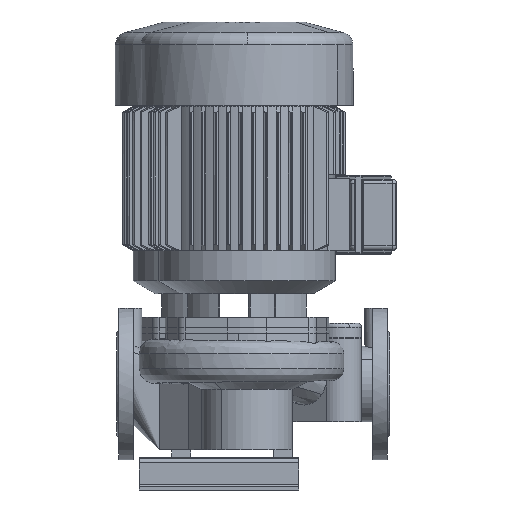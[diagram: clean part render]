
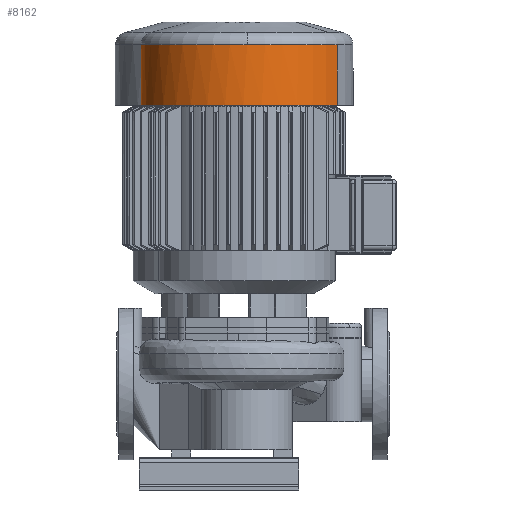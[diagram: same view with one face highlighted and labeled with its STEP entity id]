
A CAD part, left-side view. The second image highlights one B-rep face of the part: STEP entity #8162.
In plain terms, the highlighted cylindrical face has radius 140 mm (diameter 280 mm), a partial arc.
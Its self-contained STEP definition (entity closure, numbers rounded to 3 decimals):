
#8162=ADVANCED_FACE('',(#18028),#18029,.T.);
#8242=EDGE_CURVE('',#18150,#18153,#18154,.T.);
#8246=EDGE_CURVE('',#18159,#18160,#18161,.T.);
#8248=EDGE_CURVE('',#18153,#18163,#18164,.T.);
#18028=FACE_OUTER_BOUND('',#37539,.T.);
#18029=CYLINDRICAL_SURFACE('',#37540,140.0);
#18150=VERTEX_POINT('',#37665);
#18153=VERTEX_POINT('',#37669);
#18154=CIRCLE('',#37670,140.0);
#18159=VERTEX_POINT('',#37677);
#18160=VERTEX_POINT('',#37678);
#18161=CIRCLE('',#37679,140.0);
#18163=VERTEX_POINT('',#37682);
#18164=CIRCLE('',#37683,140.0);
#37539=EDGE_LOOP('',(#57237,#57238,#57239,#57240,#57241));
#37540=AXIS2_PLACEMENT_3D('',#57242,#57243,#57244);
#37665=CARTESIAN_POINT('',(-176.221,152.217,302.27));
#37669=CARTESIAN_POINT('',(-390.33,33.44,302.27));
#37670=AXIS2_PLACEMENT_3D('',#57585,#57586,#57587);
#37677=CARTESIAN_POINT('',(-176.221,152.217,222.27));
#37678=CARTESIAN_POINT('',(-324.439,-85.337,222.27));
#37679=AXIS2_PLACEMENT_3D('',#57591,#57592,#57593);
#37682=CARTESIAN_POINT('',(-324.439,-85.337,302.27));
#37683=AXIS2_PLACEMENT_3D('',#57594,#57595,#57596);
#57237=ORIENTED_EDGE('',*,*,#67137,.F.);
#57238=ORIENTED_EDGE('',*,*,#8246,.T.);
#57239=ORIENTED_EDGE('',*,*,#67138,.F.);
#57240=ORIENTED_EDGE('',*,*,#8248,.F.);
#57241=ORIENTED_EDGE('',*,*,#8242,.F.);
#57242=CARTESIAN_POINT('',(-250.33,33.44,262.27));
#57243=DIRECTION('',(0.0,-0.0,1.0));
#57244=DIRECTION('',(0.529,0.848,0.0));
#57585=CARTESIAN_POINT('',(-250.33,33.44,302.27));
#57586=DIRECTION('',(0.0,-0.0,1.0));
#57587=DIRECTION('',(0.529,0.848,0.0));
#57591=CARTESIAN_POINT('',(-250.33,33.44,222.27));
#57592=DIRECTION('',(0.0,-0.0,1.0));
#57593=DIRECTION('',(0.529,0.848,0.0));
#57594=CARTESIAN_POINT('',(-250.33,33.44,302.27));
#57595=DIRECTION('',(0.0,-0.0,1.0));
#57596=DIRECTION('',(0.529,0.848,0.0));
#67137=EDGE_CURVE('',#18159,#18150,#69578,.T.);
#67138=EDGE_CURVE('',#18163,#18160,#69579,.T.);
#69578=LINE('',#74627,#74628);
#69579=LINE('',#74629,#74630);
#74627=CARTESIAN_POINT('',(-176.221,152.217,262.27));
#74628=VECTOR('',#76343,1.0);
#74629=CARTESIAN_POINT('',(-324.439,-85.337,262.27));
#74630=VECTOR('',#76344,1.0);
#76343=DIRECTION('',(0.0,0.0,1.0));
#76344=DIRECTION('',(-0.0,-0.0,-1.0));
